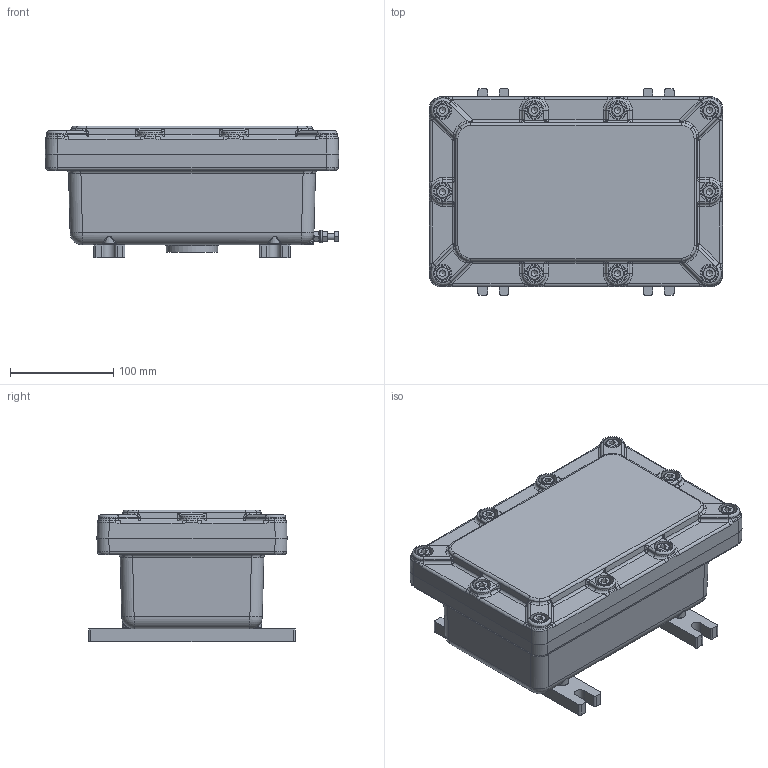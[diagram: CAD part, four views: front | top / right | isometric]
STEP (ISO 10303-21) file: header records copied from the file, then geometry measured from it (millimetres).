
FILE_DESCRIPTION(('STEP AP214'), '1');
FILE_NAME('ﾑﾌﾄ 346400 338 000 _ ﾊﾂﾌﾊ 281812 Exd (ﾁ, ﾂ05)', '', ('UNSPECIFIED'), ('UNSPECIFIED'), 'ASCON STEP Converter 1.3', 'ASCON Math Kernel', '');
FILE_SCHEMA(('AUTOMOTIVE_DESIGN { 1 0 10303 214 3 1 1}'));
Length unit declared in the file: millimetre
Products named in the file (24): ﾑﾌﾄ 346400 338 000 ﾑﾁ; ﾑﾌﾄ 346400 338 001; ﾑﾌﾄ 346400 338 002; ﾑﾌﾄ 346400 338 003; ﾑﾌﾄ 346400 338 101
Assembly tree (59 placements, depth 3):
  ﾑﾌﾄ 346400 338 000 ﾑﾁ
    ﾑﾌﾄ 346400 338 001
    ﾑﾌﾄ 346400 338 002
    (unnamed)
    (unnamed)  x2
    (unnamed)  x2
    (unnamed)  x4
    (unnamed)  x2
    ﾑﾌﾄ 346400 338 003  x2
    (unnamed)  x10
    (unnamed)  x10
    (unnamed)  x10
    (unnamed)
    (unnamed)
    (unnamed)
    (unnamed)
    ﾑﾌﾄ 346400 338 101
    (unnamed)
    (unnamed)
    (unnamed)
    (unnamed)  x3
    (unnamed)
      (unnamed)
      (unnamed)
Bounding box: 284.05 x 200 x 127.5 mm (x, y, z)
Volume: 2500414.9 mm3; surface area: 468966.4 mm2
Topology: 59 solids, 59 shells, 1705 faces, 4159 edges, 2620 vertices
Faces by surface type: plane 661, cylinder 605, bspline 216, cone 97, torus 86, sphere 40
Full cylindrical faces by diameter (mm): 3 x2, 4.134 x2, 4.5 x2, 4.917 x7, 5 x5, 5.5 x8, 5.6 x2, 6 x5, 6.4 x3, 6.5 x4, 6.6 x2, 6.647 x10, 8 x10, 9 x20, 9.2 x3, 10 x4, 11 x7, 12 x2, 12.5 x4, 13 x10, 16 x10, 17.5 x10
Entity records: 69836 total; most frequent: CARTESIAN_POINT 25502, ORIENTED_EDGE 6522, DIRECTION 6294, EDGE_CURVE 3261, AXIS2_PLACEMENT_3D 2406, VERTEX_POINT 2104, EDGE_LOOP 1613, LINE 1482
